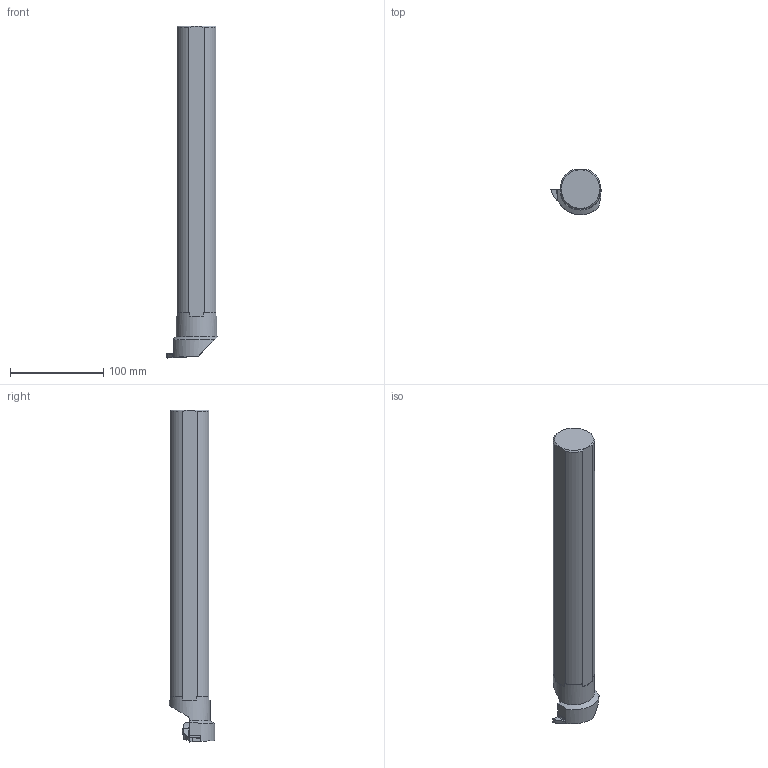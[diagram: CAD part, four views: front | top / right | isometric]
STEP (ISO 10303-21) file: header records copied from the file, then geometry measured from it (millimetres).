
FILE_DESCRIPTION(/* description */ (''),/* implementation_level */ '2;1');
FILE_NAME(/* name */ 'A28NER4_GTM.stp',/* time_stamp */ '2017-07-12T18:31:43+05:00',/* author */ (''),/* organization */ (''),/* preprocessor_version */ 'ST-DEVELOPER v15',/* originating_system */ 'SIEMENS PLM Software NX 9.0',/* authorisation */ '');
FILE_SCHEMA (('AUTOMOTIVE_DESIGN { 1 0 10303 214 3 1 1 1 }'));
Length unit declared in the file: millimetre
Products named in the file (1): A28NER4_GTM
Bounding box: 53.81 x 48.84 x 355.6 mm (x, y, z)
Volume: 506302.2 mm3; surface area: 53152.7 mm2
Topology: 4 solids, 4 shells, 151 faces, 425 edges, 292 vertices
Faces by surface type: plane 78, cylinder 62, cone 6, bspline 5
Full cylindrical faces by diameter (mm): 4.826 x1, 5.791 x1, 8.992 x1, 10.008 x1, 43.802 x1
Entity records: 5116 total; most frequent: CARTESIAN_POINT 1082, DIRECTION 838, ORIENTED_EDGE 814, EDGE_CURVE 407, AXIS2_PLACEMENT_3D 300, VERTEX_POINT 273, LINE 238, VECTOR 238
